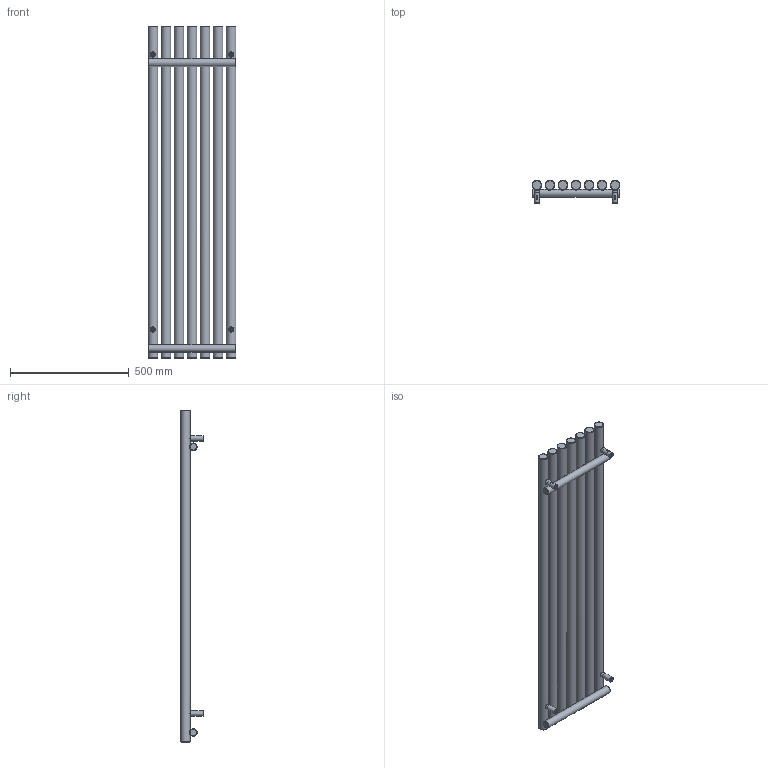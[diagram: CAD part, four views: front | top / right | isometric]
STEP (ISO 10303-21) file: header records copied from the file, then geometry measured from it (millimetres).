
FILE_DESCRIPTION(/* description */ (''),/* implementation_level */ '2;1');
FILE_NAME(/* name */ 'Z:\R\G\P\RGP116 - Grzejniki Geyser\Work\Inventor\Circolo (Rolo V, Rolo H)\ROLO-ROOM\Marketing\Bryły 3D\Zaokrąglone\WLROR140037-ES-CK-(Z).stp',/* time_stamp */ '2024-04-03T08:57:28+02:00',/* author */ ('NowAd'),/* organization */ (''),/* preprocessor_version */ 'ST-DEVELOPER v17.2',/* originating_system */ 'Autodesk Inventor 2019',/* authorisation */ '');
FILE_SCHEMA (('AUTOMOTIVE_DESIGN { 1 0 10303 214 3 1 1 }'));
Length unit declared in the file: millimetre
Products named in the file (3): WLROR140037-ES-CK-(Z); PGROR140037-ES-CK-(K); CK-V-fi40 marketing
Assembly tree (5 placements, depth 2):
  WLROR140037-ES-CK-(Z)
    PGROR140037-ES-CK-(K)
    CK-V-fi40 marketing  x4
Bounding box: 370 x 96.5 x 1400 mm (x, y, z)
Volume: 12950583 mm3; surface area: 1349494.1 mm2
Topology: 5 solids, 5 shells, 331 faces, 829 edges, 554 vertices
Faces by surface type: plane 136, cylinder 75, cone 60, torus 46, bspline 14
Full cylindrical faces by diameter (mm): 4.134 x4, 4.48 x4, 6.4 x4, 10 x4, 12 x4, 15.834 x4, 16 x4, 18.631 x2, 22 x4, 32 x2, 40 x7
Entity records: 7373 total; most frequent: CARTESIAN_POINT 3831, DIRECTION 738, ORIENTED_EDGE 696, EDGE_CURVE 348, AXIS2_PLACEMENT_3D 331, VERTEX_POINT 236, EDGE_LOOP 194, CIRCLE 181
